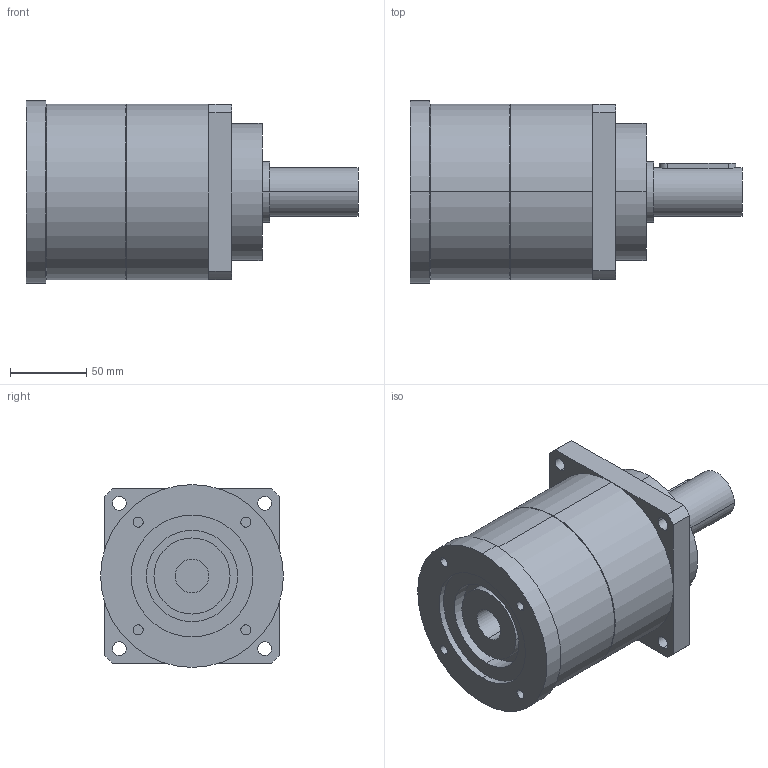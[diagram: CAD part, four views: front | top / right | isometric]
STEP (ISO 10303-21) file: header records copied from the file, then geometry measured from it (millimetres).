
FILE_DESCRIPTION(('CoCreate Modeling STEP Export'),'2;1');
FILE_NAME('GPT120_ig-3-4-5-7-10_32_B5A_22_P05.stp','2015-02-04T16:59:22',(''),(''),'CoCreate Modeling STEP processor for AP214 (Solid Model)','CoCreate Modeling 16.00C 25-Feb-2009 (C) Parametric Technology GmbH','');
FILE_SCHEMA(('AUTOMOTIVE_DESIGN { 1 0 10303 214 1 1 1 1 }'));
Length unit declared in the file: millimetre
Products named in the file (2): GPT120_ig-3-4-5-7-10_32_B5A_22_P05
Assembly tree (1 placements, depth 2):
  GPT120_ig-3-4-5-7-10_32_B5A_22_P05
    GPT120_ig-3-4-5-7-10_32_B5A_22_P05
Bounding box: 218 x 120 x 120 mm (x, y, z)
Volume: 1576187.5 mm3; surface area: 102290.9 mm2
Topology: 1 solids, 1 shells, 75 faces, 188 edges, 129 vertices
Faces by surface type: cylinder 44, plane 27, cone 4
Entity records: 2365 total; most frequent: CARTESIAN_POINT 722, ORIENTED_EDGE 376, DIRECTION 280, EDGE_CURVE 188, VERTEX_POINT 129, AXIS2_PLACEMENT_3D 105, EDGE_LOOP 97, FACE_OUTER_BOUND 75
